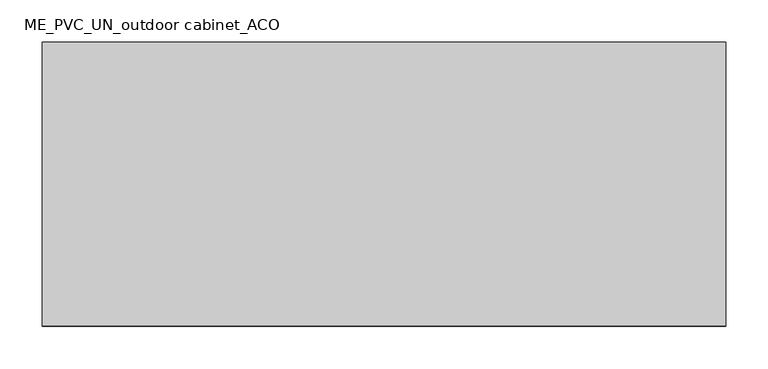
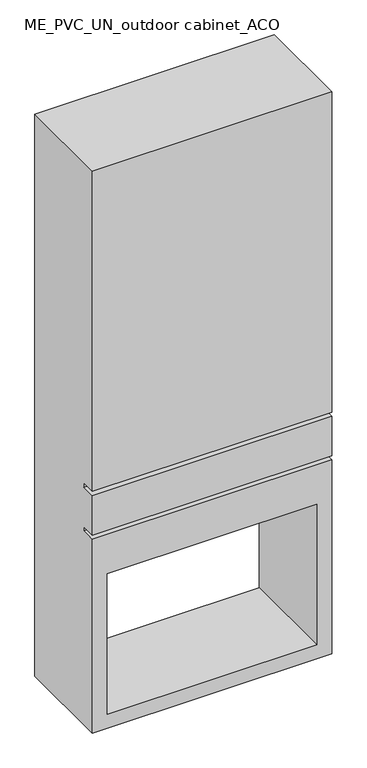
"""IFC4 building model written with IfcOpenShell, lengths in millimetres: furniture geometry, ME_PVC_UN_outdoor cabinet_ACO : cabinet for local onsite pressure pipes."""

import ifcopenshell
import ifcopenshell.guid

model = None  # the IFC model being written
_history = None  # IfcOwnerHistory: only IFC2X3 demands one
_inside = {}  # id of a spatial element -> (the spatial element, [elements in it])
_under = {}  # id of a project, library or spatial element -> (it, [spatial elements below it])
_declared = {}  # id of a project -> (the project, [libraries it declares])
_typed = {}  # id of a type object -> (the type object, [elements of that type])
_made_of = {}  # id of a material, layer set ... -> (it, [elements and type objects made of it])


def new_model(schema):
    """Start an empty IFC model of exactly this schema.

    Asked for "IFC4X3", IfcOpenShell would pick the latest addendum, in which some entities
    have other attributes; the version numbers below select the first issue.
    IFC2X3 requires an IfcOwnerHistory on every rooted entity: one is made here for all.
    """
    global model, _history
    if schema == "IFC4X3":
        model = ifcopenshell.file(schema_version=(4, 3, 0, 0))
    else:
        model = ifcopenshell.file(schema=schema)
    _inside.clear()
    _under.clear()
    _declared.clear()
    _typed.clear()
    _made_of.clear()
    _history = None
    if model.schema == "IFC2X3":
        org = make("IfcOrganization", Name="unknown")
        user = make(
            "IfcPersonAndOrganization",
            ThePerson=make("IfcPerson", FamilyName="unknown"),
            TheOrganization=org,
        )
        app = make(
            "IfcApplication",
            ApplicationDeveloper=org,
            Version="unknown",
            ApplicationFullName="unknown",
            ApplicationIdentifier="unknown",
        )
        _history = make(
            "IfcOwnerHistory",
            OwningUser=user,
            OwningApplication=app,
            ChangeAction="ADDED",
            CreationDate=0,
        )
    return model


def make(cls, **values):
    """One entity of the class cls with the attributes given. An attribute that is None is left unset."""
    return model.create_entity(
        cls, **{name: value for name, value in values.items() if value is not None}
    )


def rooted(cls, **values):
    """An entity with a GlobalId (a new one), such as an element, a storey or a relation."""
    return make(cls, GlobalId=ifcopenshell.guid.new(), OwnerHistory=_history, **values)


def si_unit(unit_type, name, prefix=None):
    """IfcSIUnit, for example si_unit("LENGTHUNIT", "METRE", prefix="MILLI")."""
    return make("IfcSIUnit", UnitType=unit_type, Prefix=prefix, Name=name)


def assignment(units):
    """IfcUnitAssignment: the units of a project."""
    return None if units is None else make("IfcUnitAssignment", Units=units)


def point(xyz):
    """IfcCartesianPoint."""
    return None if xyz is None else make("IfcCartesianPoint", Coordinates=xyz)


def direction(xyz):
    """IfcDirection."""
    return None if xyz is None else make("IfcDirection", DirectionRatios=xyz)


def frame(location, z_axis=None, x_axis=None):
    """IfcAxis2Placement3D, a coordinate frame: its origin and axes. An axis left out is left unset."""
    return make(
        "IfcAxis2Placement3D",
        Location=point(location),
        Axis=direction(z_axis),
        RefDirection=direction(x_axis),
    )


def origin():
    """The frame at (0, 0, 0) with its axes left unset."""
    return frame((0.0, 0.0, 0.0))


def place(relative_to, where):
    """IfcLocalPlacement: puts the frame where relative to a parent placement (None: the world)."""
    return make(
        "IfcLocalPlacement", PlacementRelTo=relative_to, RelativePlacement=where
    )


def context(
    kind, dimensions, precision=None, world=None, true_north=None, identifier=None
):
    """IfcGeometricRepresentationContext, for example the 3D "Model" context."""
    return make(
        "IfcGeometricRepresentationContext",
        ContextIdentifier=identifier,
        ContextType=kind,
        CoordinateSpaceDimension=dimensions,
        Precision=precision,
        WorldCoordinateSystem=world,
        TrueNorth=true_north,
    )


def project(units=None, contexts=None):
    """IfcProject with its units and contexts."""
    return rooted(
        "IfcProject",
        Name="project",
        RepresentationContexts=contexts,
        UnitsInContext=assignment(units),
    )


def spatial(cls, under=None, at=None, **own):
    """A site, building, storey or space (cls), placed at a placement, below another one or the project."""
    s = rooted(cls, ObjectPlacement=at, **own)
    if under is not None:
        _under.setdefault(under.id(), (under, []))[1].append(s)
    return s


def faces_of(points, faces, orient=None, outer=None):
    """IfcFace entities. A face is a list of loops; a loop is a list of indices into points, from 0.

    orient and outer hold one flag for each loop. By default every Orientation is true, the
    first loop of a face is its IfcFaceOuterBound and the others are IfcFaceBound.
    """
    made = []
    for i, loops in enumerate(faces):
        bounds = []
        for j, loop in enumerate(loops):
            is_outer = j == 0 if outer is None else outer[i][j]
            bounds.append(
                make(
                    "IfcFaceOuterBound" if is_outer else "IfcFaceBound",
                    Bound=make("IfcPolyLoop", Polygon=[points[k] for k in loop]),
                    Orientation=True if orient is None else orient[i][j],
                )
            )
        made.append(make("IfcFace", Bounds=bounds))
    return made


def faceted_brep(points, faces, orient=None, outer=None, voids=None):
    """IfcFacetedBrep: a solid bounded by flat faces; with voids (closed shells), ...WithVoids."""
    shared = [point(p) for p in points]
    hull = make("IfcClosedShell", CfsFaces=faces_of(shared, faces, orient, outer))
    if voids is None:
        return make("IfcFacetedBrep", Outer=hull)
    return make(
        "IfcFacetedBrepWithVoids",
        Outer=hull,
        Voids=[
            make(cls, CfsFaces=faces_of(shared, fs, o, b)) for cls, fs, o, b in voids
        ],
    )


def shape(context_of_items, identifier, shape_type, items):
    """IfcShapeRepresentation: the items that make up one representation, for example the "Body"."""
    return make(
        "IfcShapeRepresentation",
        ContextOfItems=context_of_items,
        RepresentationIdentifier=identifier,
        RepresentationType=shape_type,
        Items=items,
    )


def source(mapping_origin, context_of_items, identifier, shape_type, items):
    """IfcRepresentationMap: a shape defined once, which mapped items show again and again."""
    return make(
        "IfcRepresentationMap",
        MappingOrigin=mapping_origin,
        MappedRepresentation=shape(context_of_items, identifier, shape_type, items),
    )


def transform(
    local_origin,
    x_axis=None,
    y_axis=None,
    z_axis=None,
    scale=None,
    scale2=None,
    scale3=None,
    uniform=True,
):
    """IfcCartesianTransformationOperator3D, or its non-uniform kind. x_axis, y_axis, z_axis: its Axis1, 2, 3."""
    if uniform:
        return make(
            "IfcCartesianTransformationOperator3D",
            Axis1=direction(x_axis),
            Axis2=direction(y_axis),
            LocalOrigin=point(local_origin),
            Scale=scale,
            Axis3=direction(z_axis),
        )
    return make(
        "IfcCartesianTransformationOperator3DnonUniform",
        Axis1=direction(x_axis),
        Axis2=direction(y_axis),
        LocalOrigin=point(local_origin),
        Scale=scale,
        Axis3=direction(z_axis),
        Scale2=scale2,
        Scale3=scale3,
    )


def mapped(mapping_source, mapping_target):
    """IfcMappedItem: shows the shape of a source again, moved by a transform."""
    return make(
        "IfcMappedItem", MappingSource=mapping_source, MappingTarget=mapping_target
    )


def made_of(thing, what):
    """Note that an element or type object is made of a material, layer set ...; save() writes the relation."""
    if what is not None:
        _made_of.setdefault(what.id(), (what, []))[1].append(thing)
    return thing


def element(
    cls,
    number,
    at=None,
    inside=None,
    cuts=None,
    type_object=None,
    material=None,
    context=None,
    identifier="Body",
    shape_type=None,
    held_by="IfcProductDefinitionShape",
    body=None,
    shapes=None,
    **own,
):
    """One element of the class cls, such as IfcWall. Its Tag is "e" and its number.

    at: its placement. inside: the storey or other place that contains it. cuts: it is an
    opening in that element (IfcRelVoidsElement). A single representation is given by context,
    identifier, shape_type and body (its items); several are given by shapes. held_by: the class
    of the entity that holds the representations. save() writes the other relations.
    """
    e = rooted(cls, Tag="e%d" % number, ObjectPlacement=at, **own)
    if body is not None:
        shapes = [shape(context, identifier, shape_type, body)]
    if shapes is not None:
        e.Representation = make(held_by, Representations=shapes)
    if inside is not None:
        _inside.setdefault(inside.id(), (inside, []))[1].append(e)
    if cuts is not None:
        rooted(
            "IfcRelVoidsElement", RelatingBuildingElement=cuts, RelatedOpeningElement=e
        )
    if type_object is not None:
        _typed.setdefault(type_object.id(), (type_object, []))[1].append(e)
    return made_of(e, material)


def aggregate(whole, parts):
    """IfcRelAggregates: a whole, such as a stair, and the parts it consists of."""
    return rooted("IfcRelAggregates", RelatingObject=whole, RelatedObjects=parts)


def save(model, path):
    """Write the relations noted so far, then the file.

    IfcRelAggregates (storeys below a building ...), IfcRelContainedInSpatialStructure (elements
    in a storey), IfcRelDefinesByType, IfcRelAssociatesMaterial and IfcRelDeclares: one each for
    every whole, place, type object, material and project.
    """
    for whole, parts in _under.values():
        aggregate(whole, parts)
    for where, things in _inside.values():
        rooted(
            "IfcRelContainedInSpatialStructure",
            RelatedElements=things,
            RelatingStructure=where,
        )
    for kind, things in _typed.values():
        rooted("IfcRelDefinesByType", RelatedObjects=things, RelatingType=kind)
    for what, things in _made_of.values():
        rooted("IfcRelAssociatesMaterial", RelatedObjects=things, RelatingMaterial=what)
    for by, libraries in _declared.values():
        rooted("IfcRelDeclares", RelatingContext=by, RelatedDefinitions=libraries)
    model.write(path)


def me_pvc_un_outdoor_cabinet_aco_8531c83b(model_context):
    return source(origin(), model_context, "Body", "Brep", [
        faceted_brep([(403.0, 0.0, 1445.0), (-403.0, 0.0, 1445.0), (-403.0, 0.0, 305.0), (403.0, 0.0, 305.0), (-403.0, 0.0, -555.0), (403.0, 0.0, -555.0), (403.0, 0.0, 135.0), (-403.0, 0.0, 135.0), (353.0, 0.0, -505.0), (-353.0, 0.0, -505.0), (-353.0, 0.0, -5.0), (353.0, 0.0, -5.0), (-403.0, 0.0, 290.0), (-403.0, 0.0, 150.0), (403.0, 0.0, 150.0), (403.0, 0.0, 290.0), (403.0, 335.0, 1445.0), (403.0, 335.0, -555.0), (-403.0, 335.0, -555.0), (-403.0, 335.0, 1445.0), (-353.0, 335.0, -505.0), (353.0, 335.0, -505.0), (353.0, 335.0, -5.0), (-353.0, 335.0, -5.0), (-403.0, 50.0, 135.0), (-403.0, 50.0, 150.0), (-403.0, 50.0, 290.0), (-403.0, 50.0, 305.0), (403.0, 50.0, 305.0), (403.0, 50.0, 290.0), (403.0, 50.0, 150.0), (403.0, 50.0, 135.0)], [[[0, 1, 2, 3]], [[4, 5, 6, 7], [8, 9, 10, 11]], [[12, 13, 14, 15]], [[16, 17, 18, 19], [20, 21, 22, 23]], [[1, 0, 16, 19]], [[19, 18, 4, 7, 24, 25, 13, 12, 26, 27, 2, 1]], [[5, 4, 18, 17]], [[17, 16, 0, 3, 28, 29, 15, 14, 30, 31, 6, 5]], [[8, 21, 20, 9]], [[21, 8, 11, 22]], [[22, 11, 10, 23]], [[9, 20, 23, 10]], [[30, 25, 24, 31]], [[28, 27, 26, 29]], [[25, 30, 14, 13]], [[31, 24, 7, 6]], [[27, 28, 3, 2]], [[29, 26, 12, 15]]]),
    ])


if __name__ == "__main__":
    model = new_model("IFC4")
    model_context = context("Model", 3, world=origin())
    ifc_project = project(units=[si_unit("LENGTHUNIT", "METRE", prefix="MILLI")], contexts=[model_context])
    site = spatial("IfcSite", under=ifc_project)
    building = spatial("IfcBuilding", under=site)
    placement = place(None, origin())
    me_pvc_un_outdoor_cabinet_aco_shape = me_pvc_un_outdoor_cabinet_aco_8531c83b(model_context)
    element("IfcFurniture", 1, ObjectType="ME_PVC_UN_outdoor cabinet_ACO : cabinet for local onsite pressure pipes", at=placement, inside=building, context=model_context, shape_type="MappedRepresentation", body=[
        mapped(me_pvc_un_outdoor_cabinet_aco_shape, transform((0.0, 0.0, 0.0), x_axis=(1.0, 0.0, 0.0), y_axis=(0.0, 1.0, 0.0), z_axis=(0.0, 0.0, 1.0))),
    ])
    save(model, "model.ifc")
